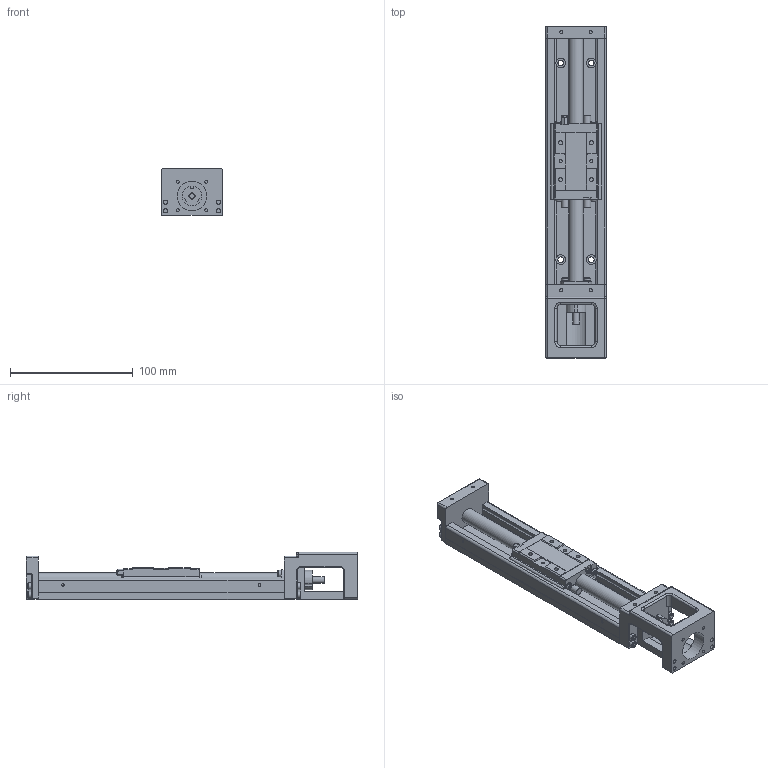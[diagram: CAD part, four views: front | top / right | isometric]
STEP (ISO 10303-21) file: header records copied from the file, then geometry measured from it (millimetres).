
FILE_DESCRIPTION(/* description */ (''),/* implementation_level */ '2;1');
FILE_NAME(/* name */ 'FKL50E200 02C7.stp',/* time_stamp */ '2018-12-26T10:06:50+08:00',/* author */ (''),/* organization */ (''),/* preprocessor_version */ 'ST-DEVELOPER v16',/* originating_system */ 'SIEMENS PLM Software NX 10.0',/* authorisation */ '');
FILE_SCHEMA (('AUTOMOTIVE_DESIGN { 1 0 10303 214 3 1 1 1 }'));
Length unit declared in the file: millimetre
Products named in the file (3): 滑块.KK50-A1; 轨道.KK50-200; FKL50E200 02C7
Assembly tree (2 placements, depth 2):
  FKL50E200 02C7
    轨道.KK50-200
    滑块.KK50-A1
Bounding box: 50 x 270 x 38.5 mm (x, y, z)
Volume: 213428.4 mm3; surface area: 73732.7 mm2
Topology: 2 solids, 5 shells, 616 faces, 1622 edges, 1037 vertices
Faces by surface type: plane 328, cylinder 185, cone 65, torus 28, extrusion 4, sphere 4, bspline 2
Full cylindrical faces by diameter (mm): 2.05 x4, 2.5 x10, 3.3 x5, 3.4 x4, 4 x1, 4.5 x6, 5 x1, 5.5 x16, 6 x4, 8 x6, 11 x1, 12 x2, 24 x1
Entity records: 18936 total; most frequent: CARTESIAN_POINT 3998, DIRECTION 3042, ORIENTED_EDGE 2928, EDGE_CURVE 1464, AXIS2_PLACEMENT_3D 1075, VERTEX_POINT 985, VECTOR 892, LINE 888
